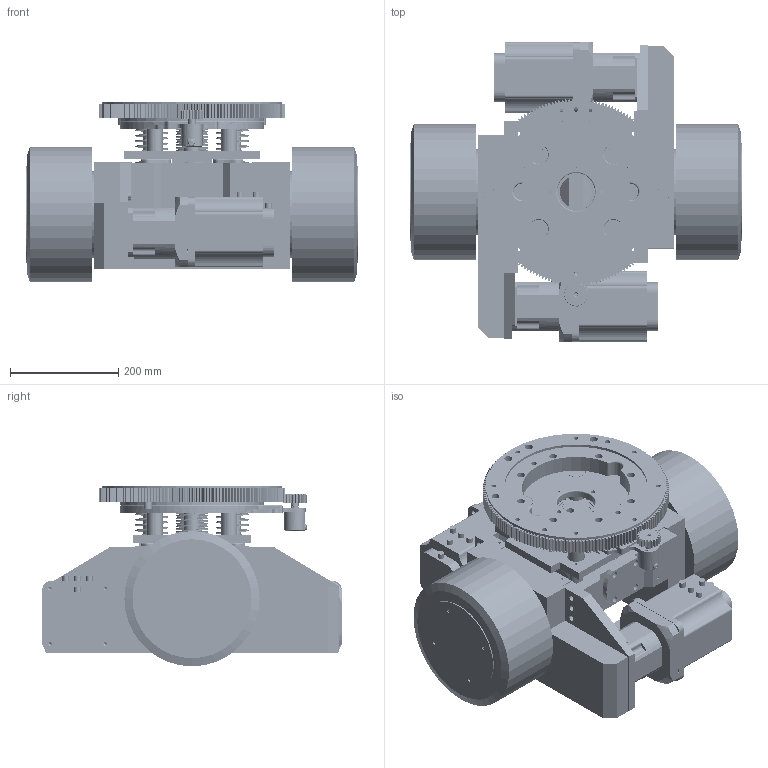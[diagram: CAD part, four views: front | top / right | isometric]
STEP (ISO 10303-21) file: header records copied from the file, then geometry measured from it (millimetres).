
FILE_DESCRIPTION(/* description */ (''),/* implementation_level */ '2;1');
FILE_NAME(/* name */ 'TYCD250_SM15030BGZ_i3x20_i17020 LK120 H334 D650 PB3s30 6T.stp',/* time_stamp */ '2026-06-09T13:17:19+08:00',/* author */ (''),/* organization */ (''),/* preprocessor_version */ 'ST-DEVELOPER v20.1',/* originating_system */ 'SIEMENS PLM Software NX2512.1700',/* authorisation */ '');
FILE_SCHEMA (('AUTOMOTIVE_DESIGN { 1 0 10303 214 3 1 1 1 }'));
Products named in the file (1): TYCD250_SM15030BGZ_i3x20_i17020  LK120 H334 D650  PB3s30 6T_objects
Bounding box: 614 x 553.45 x 334 mm (x, y, z)
Volume: 27999590.2 mm3; surface area: 3925261.7 mm2
Topology: 85 solids, 118 shells, 3458 faces, 8712 edges, 5771 vertices
Faces by surface type: cylinder 2031, plane 902, cone 324, torus 66, bspline 52, sphere 43, extrusion 40
Full cylindrical faces by diameter (mm): 2.5 x2, 3.2 x3, 3.3 x3, 4.2 x31, 4.917 x2, 5 x12, 5.2 x31, 5.5 x23, 6 x9, 6.2 x12, 6.4 x8, 6.5 x24, 6.8 x30, 8.5 x88, 9 x17, 10 x58, 10.3 x4, 10.5 x54, 11 x2, 12 x30, 14 x16, 14.2 x1, 15 x10, 17 x54, 20 x1, 22 x4, 23 x2, 30 x24, 30.723 x2, 31 x8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
Entity records: 153197 total; most frequent: CARTESIAN_POINT 70978, DIRECTION 18176, ORIENTED_EDGE 14724, AXIS2_PLACEMENT_3D 7796, EDGE_CURVE 7362, VERTEX_POINT 5393, EDGE_LOOP 5270, CIRCLE 4376
